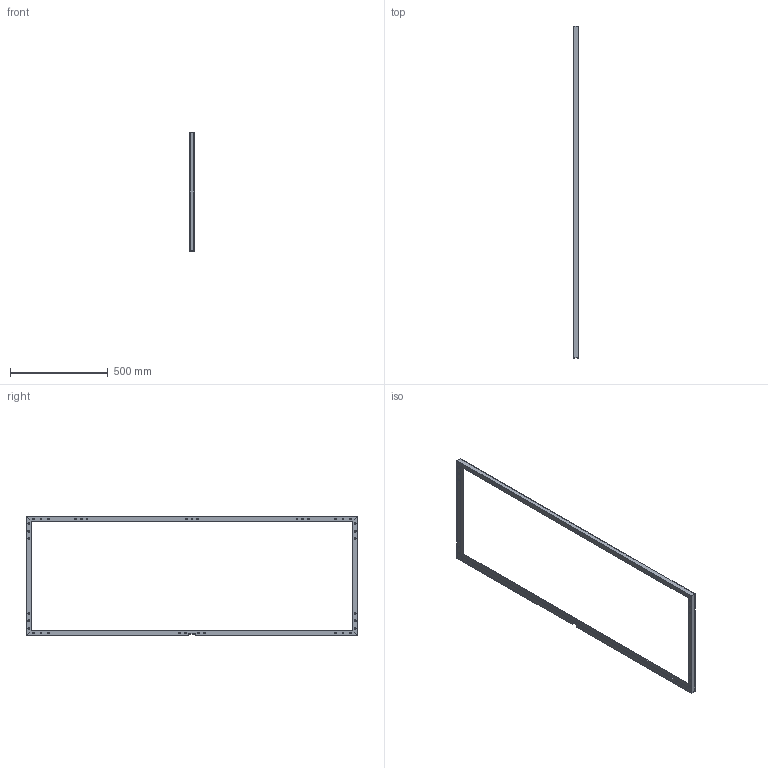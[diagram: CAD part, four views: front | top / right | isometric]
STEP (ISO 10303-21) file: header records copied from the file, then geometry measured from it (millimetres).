
FILE_DESCRIPTION(('FreeCAD Model'),'2;1');
FILE_NAME('Open CASCADE Shape Model','2026-10-06T09:33:39',('FreeCAD'),( 'FreeCAD'),'Open CASCADE STEP processor 7.8','FreeCAD','Unknown');
FILE_SCHEMA(('AUTOMOTIVE_DESIGN { 1 0 10303 214 1 1 1 1 }'));
Length unit declared in the file: millimetre
Products named in the file (1): Open CASCADE STEP translator 7.8 93
Bounding box: 25.4 x 1697.54 x 611.77 mm (x, y, z)
Volume: 975611.2 mm3; surface area: 650819.7 mm2
Topology: 4 solids, 4 shells, 154 faces, 399 edges, 251 vertices
Faces by surface type: plane 71, cylinder 46, cone 37
Full cylindrical faces by diameter (mm): 5.5 x37
Entity records: 4828 total; most frequent: DIRECTION 838, CARTESIAN_POINT 805, ORIENTED_EDGE 798, EDGE_CURVE 399, AXIS2_PLACEMENT_3D 284, LINE 270, VECTOR 270, VERTEX_POINT 251
